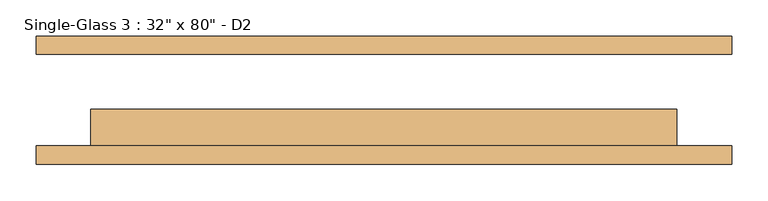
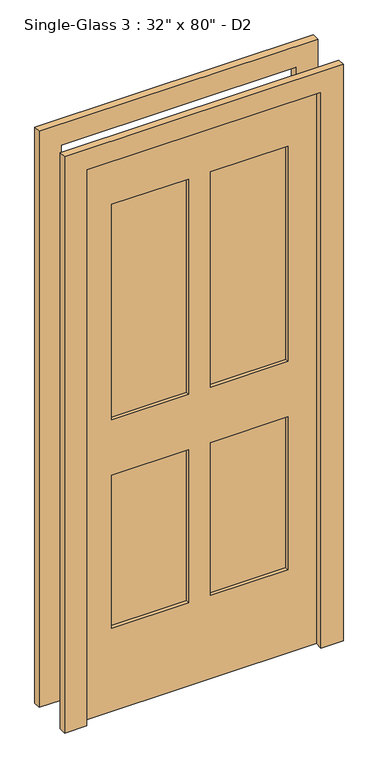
"""IFC4 building model written with IfcOpenShell, lengths in millimetres: door geometry."""

from ifc_helpers import new_model, si_unit, frame, origin, place, context, project, spatial, polyline, outline, extrude, source, transform, mapped, element, save


def door_9f33a548(model_context):
    return source(origin(), model_context, "Body", "SweptSolid", [
        extrude(outline(polyline([(2108.2, -482.6), (0.0, -482.6), (0.0, -406.5240165), (2033.3906173, -406.5240165), (2033.3906173, 406.2759835), (0.0, 406.2759835), (0.0, 482.6), (2108.2, 482.6), (2108.2, -482.6)])), frame((0.0, -88.9, 0.0), z_axis=(0.0, 1.0, 0.0), x_axis=(0.0, 0.0, 1.0)), (0.0, 0.0, 1.0), 25.4),
        extrude(outline(polyline([(2108.2, 482.6), (2108.2, -482.6), (1.3906173, -482.6), (1.3906173, -406.5240165), (2032.0, -406.5240165), (2032.0, 406.4), (0.0, 406.4), (0.0, 482.6), (2108.2, 482.6)])), frame((0.0, 63.5, 0.0), z_axis=(0.0, 1.0, 0.0), x_axis=(0.0, 0.0, 1.0)), (0.0, 0.0, 1.0), 25.4),
        extrude(outline(polyline([(-37.9166629, -25.4), (-37.9166629, -50.8), (-304.8, -50.8), (-304.8, -25.4), (-37.9166629, -25.4)])), frame((0.0, 0.0, 1066.8), z_axis=(0.0, 0.0, 1.0), x_axis=(1.0, 0.0, 0.0)), (0.0, 0.0, 1.0), 787.6046757),
        extrude(outline(polyline([(304.8, -25.4), (304.8, -50.8), (37.4271634, -50.8), (37.4271634, -25.4), (304.8, -25.4)])), frame((0.0, 0.0, 1066.8), z_axis=(0.0, 0.0, 1.0), x_axis=(1.0, 0.0, 0.0)), (0.0, 0.0, 1.0), 787.6046757),
        extrude(outline(polyline([(-37.9166629, -25.4), (-37.9166629, -50.8), (-304.8, -50.8), (-304.8, -25.4), (-37.9166629, -25.4)])), frame((0.0, 0.0, 305.0046757), z_axis=(0.0, 0.0, 1.0), x_axis=(1.0, 0.0, 0.0)), (0.0, 0.0, 1.0), 558.8),
        extrude(outline(polyline([(304.8, -25.4), (304.8, -50.8), (37.4271634, -50.8), (37.4271634, -25.4), (304.8, -25.4)])), frame((0.0, 0.0, 305.0046757), z_axis=(0.0, 0.0, 1.0), x_axis=(1.0, 0.0, 0.0)), (0.0, 0.0, 1.0), 558.5953243),
        extrude(outline(polyline([(2033.3906173, 406.2759835), (2033.3906173, -406.5240165), (1.3906173, -406.5240165), (1.3906173, 406.2759835), (2033.3906173, 406.2759835)]), holes=[polyline([(1855.795293, -38.2240165), (1068.1906173, -38.2240165), (1068.1906173, -304.2511799), (1855.795293, -304.2511799), (1855.795293, -38.2240165)]), polyline([(1855.795293, 305.3488201), (1068.1906173, 305.3488201), (1068.1906173, 37.9759835), (1855.795293, 37.9759835), (1855.795293, 305.3488201)]), polyline([(865.195293, -38.2240165), (306.395293, -38.2240165), (306.395293, -304.2511799), (865.195293, -304.2511799), (865.195293, -38.2240165)]), polyline([(864.9906173, 305.3488201), (306.395293, 305.3488201), (306.395293, 37.9759835), (864.9906173, 37.9759835), (864.9906173, 305.3488201)])]), frame((0.0, -63.5, 0.0), z_axis=(0.0, 1.0, 0.0), x_axis=(0.0, 0.0, 1.0)), (0.0, 0.0, 1.0), 50.8),
    ])


if __name__ == "__main__":
    model = new_model("IFC4")
    model_context = context("Model", 3, world=origin())
    ifc_project = project(units=[si_unit("LENGTHUNIT", "METRE", prefix="MILLI")], contexts=[model_context])
    site = spatial("IfcSite", under=ifc_project)
    building = spatial("IfcBuilding", under=site)
    placement = place(None, origin())
    door_shape = door_9f33a548(model_context)
    element("IfcDoor", 1, ObjectType="Single-Glass 3 : 32\" x 80\" - D2", at=placement, inside=building, context=model_context, shape_type="MappedRepresentation", body=[
        mapped(door_shape, transform((0.0, 0.0, 0.0), x_axis=(1.0, 0.0, 0.0), y_axis=(0.0, 1.0, 0.0), z_axis=(0.0, 0.0, 1.0))),
    ])
    save(model, "model.ifc")
